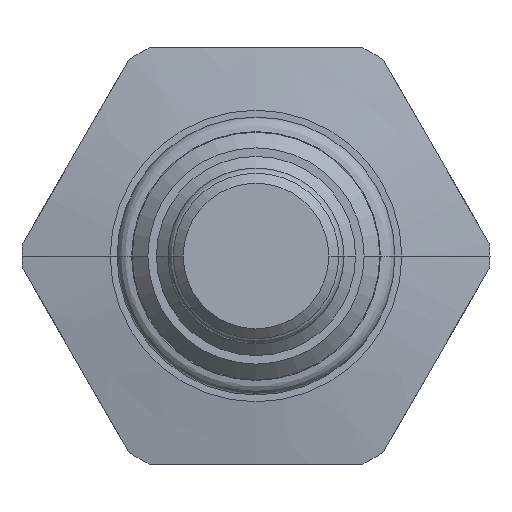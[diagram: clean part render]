
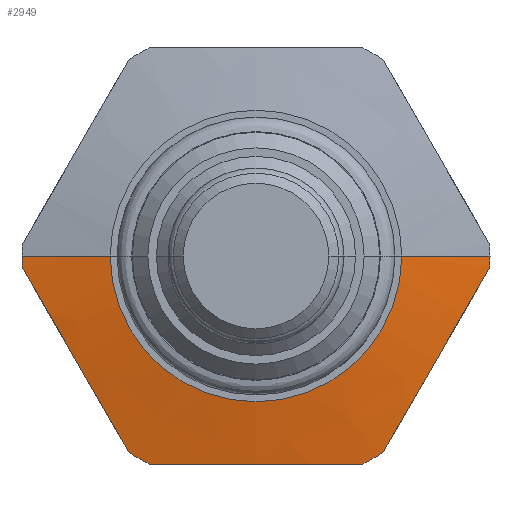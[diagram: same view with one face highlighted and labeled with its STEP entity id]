
A CAD part, front view. The second image highlights one B-rep face of the part: STEP entity #2949.
In plain terms, the highlighted conical face has half-angle 80 degrees and reference radius 14.478 mm.
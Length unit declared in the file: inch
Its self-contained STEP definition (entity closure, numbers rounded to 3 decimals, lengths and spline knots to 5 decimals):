
#641=CARTESIAN_POINT('',(0.32075,0.07663,-0.625));
#642=CARTESIAN_POINT('',(0.30627,0.07546,-0.625));
#643=CARTESIAN_POINT('',(0.27745,0.07327,-0.625));
#644=CARTESIAN_POINT('',(0.2347,0.07041,-0.625));
#645=CARTESIAN_POINT('',(0.19215,0.06798,-0.625));
#646=CARTESIAN_POINT('',(0.14966,0.066,-0.625));
#647=CARTESIAN_POINT('',(0.10704,0.06449,-0.625));
#648=CARTESIAN_POINT('',(0.0643,0.06346,-0.625));
#649=CARTESIAN_POINT('',(0.02144,0.06294,-0.625));
#650=CARTESIAN_POINT('',(-0.02144,0.06294,-0.625));
#651=CARTESIAN_POINT('',(-0.0643,0.06346,-0.625));
#652=CARTESIAN_POINT('',(-0.10704,0.06449,-0.625));
#653=CARTESIAN_POINT('',(-0.14966,0.066,-0.625));
#654=CARTESIAN_POINT('',(-0.19215,0.06798,-0.625));
#655=CARTESIAN_POINT('',(-0.2347,0.07041,-0.625));
#656=CARTESIAN_POINT('',(-0.27745,0.07327,-0.625));
#657=CARTESIAN_POINT('',(-0.30627,0.07546,-0.625));
#658=CARTESIAN_POINT('',(-0.32075,0.07663,-0.625));
#678=CARTESIAN_POINT('',(0.,0.07663,0.));
#679=DIRECTION('',(0.,1.,0.));
#680=DIRECTION('',(-0.457,0.,-0.89));
#681=AXIS2_PLACEMENT_3D('',#678,#679,#680);
#683=CARTESIAN_POINT('',(0.,0.07663,0.));
#684=DIRECTION('',(0.,1.,0.));
#685=DIRECTION('',(-0.999,0.,-0.049));
#686=AXIS2_PLACEMENT_3D('',#683,#684,#685);
#688=CARTESIAN_POINT('',(0.,0.07663,0.));
#689=DIRECTION('',(0.,1.,0.));
#690=DIRECTION('',(1.,0.,0.));
#691=AXIS2_PLACEMENT_3D('',#688,#689,#690);
#693=CARTESIAN_POINT('',(0.,0.07663,0.));
#694=DIRECTION('',(0.,1.,0.));
#695=DIRECTION('',(0.542,0.,-0.84));
#696=AXIS2_PLACEMENT_3D('',#693,#694,#695);
#720=CARTESIAN_POINT('',(-0.38089,0.07663,
-0.59028));
#721=CARTESIAN_POINT('',(-0.38813,0.07546,
-0.57774));
#722=CARTESIAN_POINT('',(-0.40254,0.07327,
-0.55278));
#723=CARTESIAN_POINT('',(-0.42392,0.07041,
-0.51575));
#724=CARTESIAN_POINT('',(-0.44519,0.06798,
-0.47891));
#725=CARTESIAN_POINT('',(-0.46644,0.066,
-0.44211));
#726=CARTESIAN_POINT('',(-0.48775,0.06449,
-0.4052));
#727=CARTESIAN_POINT('',(-0.50912,0.06346,
-0.36819));
#728=CARTESIAN_POINT('',(-0.53054,0.06294,
-0.33107));
#729=CARTESIAN_POINT('',(-0.55199,0.06294,
-0.29393));
#730=CARTESIAN_POINT('',(-0.57342,0.06346,
-0.25681));
#731=CARTESIAN_POINT('',(-0.59479,0.06449,
-0.2198));
#732=CARTESIAN_POINT('',(-0.61609,0.066,
-0.18289));
#733=CARTESIAN_POINT('',(-0.63734,0.06798,
-0.14609));
#734=CARTESIAN_POINT('',(-0.65861,0.07041,
-0.10925));
#735=CARTESIAN_POINT('',(-0.67999,0.07327,
-0.07222));
#736=CARTESIAN_POINT('',(-0.6944,0.07546,
-0.04726));
#737=CARTESIAN_POINT('',(-0.70164,0.07663,
-0.03472));
#830=DIRECTION('',(-0.985,-0.174,0.));
#831=VECTOR('',#830,0.26909);
#832=CARTESIAN_POINT('',(0.7025,0.07663,0.));
#833=LINE('',#832,#831);
#834=DIRECTION('',(0.985,-0.174,0.));
#835=VECTOR('',#834,0.26909);
#836=CARTESIAN_POINT('',(-0.7025,0.07663,0.));
#837=LINE('',#836,#835);
#962=CARTESIAN_POINT('',(0.70164,0.07663,
-0.03472));
#963=CARTESIAN_POINT('',(0.6944,0.07546,
-0.04726));
#964=CARTESIAN_POINT('',(0.67999,0.07327,
-0.07222));
#965=CARTESIAN_POINT('',(0.65861,0.07041,
-0.10925));
#966=CARTESIAN_POINT('',(0.63734,0.06798,
-0.14609));
#967=CARTESIAN_POINT('',(0.61609,0.066,
-0.18289));
#968=CARTESIAN_POINT('',(0.59479,0.06449,
-0.2198));
#969=CARTESIAN_POINT('',(0.57342,0.06346,
-0.25681));
#970=CARTESIAN_POINT('',(0.55199,0.06294,
-0.29393));
#971=CARTESIAN_POINT('',(0.53054,0.06294,
-0.33107));
#972=CARTESIAN_POINT('',(0.50912,0.06346,
-0.36819));
#973=CARTESIAN_POINT('',(0.48775,0.06449,
-0.4052));
#974=CARTESIAN_POINT('',(0.46644,0.066,
-0.44211));
#975=CARTESIAN_POINT('',(0.44519,0.06798,
-0.47891));
#976=CARTESIAN_POINT('',(0.42392,0.07041,
-0.51575));
#977=CARTESIAN_POINT('',(0.40254,0.07327,
-0.55278));
#978=CARTESIAN_POINT('',(0.38813,0.07546,
-0.57774));
#979=CARTESIAN_POINT('',(0.38089,0.07663,
-0.59028));
#1004=CARTESIAN_POINT('',(0.,0.0299,0.));
#1005=DIRECTION('',(0.,1.,0.));
#1006=DIRECTION('',(1.,0.,0.));
#1007=AXIS2_PLACEMENT_3D('',#1004,#1005,#1006);
#1619=CARTESIAN_POINT('',(0.4375,0.0299,0.));
#1621=VERTEX_POINT('',#1619);
#1623=CARTESIAN_POINT('',(-0.4375,0.0299,0.));
#1625=VERTEX_POINT('',#1623);
#1675=CARTESIAN_POINT('',(-0.32075,0.07663,-0.625));
#1676=CARTESIAN_POINT('',(-0.38089,0.07663,
-0.59028));
#1677=VERTEX_POINT('',#1675);
#1678=VERTEX_POINT('',#1676);
#1679=CARTESIAN_POINT('',(-0.70164,0.07663,
-0.03472));
#1680=CARTESIAN_POINT('',(-0.7025,0.07663,0.));
#1681=VERTEX_POINT('',#1679);
#1682=VERTEX_POINT('',#1680);
#1683=CARTESIAN_POINT('',(0.7025,0.07663,0.));
#1684=CARTESIAN_POINT('',(0.70164,0.07663,
-0.03472));
#1685=VERTEX_POINT('',#1683);
#1686=VERTEX_POINT('',#1684);
#1687=CARTESIAN_POINT('',(0.38089,0.07663,
-0.59028));
#1688=CARTESIAN_POINT('',(0.32075,0.07663,-0.625));
#1689=VERTEX_POINT('',#1687);
#1690=VERTEX_POINT('',#1688);
#2924=CARTESIAN_POINT('',(0.,0.05327,0.));
#2925=DIRECTION('',(0.,1.,0.));
#2926=DIRECTION('',(1.,0.,0.));
#2927=AXIS2_PLACEMENT_3D('',#2924,#2925,#2926);
#2928=CONICAL_SURFACE('',#2927,0.57,80.);
#2929=ORIENTED_EDGE('',*,*,#2914,.T.);
#2931=ORIENTED_EDGE('',*,*,#2930,.T.);
#2933=ORIENTED_EDGE('',*,*,#2932,.T.);
#2935=ORIENTED_EDGE('',*,*,#2934,.T.);
#2937=ORIENTED_EDGE('',*,*,#2936,.F.);
#2939=ORIENTED_EDGE('',*,*,#2938,.F.);
#2941=ORIENTED_EDGE('',*,*,#2940,.T.);
#2943=ORIENTED_EDGE('',*,*,#2942,.T.);
#2945=ORIENTED_EDGE('',*,*,#2944,.T.);
#2946=ORIENTED_EDGE('',*,*,#2897,.T.);
#2947=EDGE_LOOP('',(#2929,#2931,#2933,#2935,#2937,#2939,#2941,#2943,#2945,
#2946));
#2948=FACE_OUTER_BOUND('',#2947,.F.);
#2949=ADVANCED_FACE('',(#2948),#2928,.T.);
#659=B_SPLINE_CURVE_WITH_KNOTS('',3,(#641,#642,#643,#644,#645,#646,#647,#648,
#649,#650,#651,#652,#653,#654,#655,#656,#657,#658),.UNSPECIFIED.,.F.,.F.,(4,1,1,
1,1,1,1,1,1,1,1,1,1,1,1,4),(0.,0.06667,0.13333,0.2,
0.26667,0.33333,0.4,0.46667,0.53333,
0.6,0.66667,0.73333,0.8,0.86667,
0.93333,1.),.UNSPECIFIED.);
#682=CIRCLE('',#681,0.7025);
#687=CIRCLE('',#686,0.7025);
#692=CIRCLE('',#691,0.7025);
#697=CIRCLE('',#696,0.7025);
#738=B_SPLINE_CURVE_WITH_KNOTS('',3,(#720,#721,#722,#723,#724,#725,#726,#727,
#728,#729,#730,#731,#732,#733,#734,#735,#736,#737),.UNSPECIFIED.,.F.,.F.,(4,1,1,
1,1,1,1,1,1,1,1,1,1,1,1,4),(0.,0.06667,0.13333,0.2,
0.26667,0.33333,0.4,0.46667,0.53333,
0.6,0.66667,0.73333,0.8,0.86667,
0.93333,1.),.UNSPECIFIED.);
#980=B_SPLINE_CURVE_WITH_KNOTS('',3,(#962,#963,#964,#965,#966,#967,#968,#969,
#970,#971,#972,#973,#974,#975,#976,#977,#978,#979),.UNSPECIFIED.,.F.,.F.,(4,1,1,
1,1,1,1,1,1,1,1,1,1,1,1,4),(0.,0.06667,0.13333,0.2,
0.26667,0.33333,0.4,0.46667,0.53333,
0.6,0.66667,0.73333,0.8,0.86667,
0.93333,1.),.UNSPECIFIED.);
#1008=CIRCLE('',#1007,0.4375);
#2897=EDGE_CURVE('',#1690,#1677,#659,.T.);
#2914=EDGE_CURVE('',#1677,#1678,#682,.T.);
#2930=EDGE_CURVE('',#1678,#1681,#738,.T.);
#2932=EDGE_CURVE('',#1681,#1682,#687,.T.);
#2934=EDGE_CURVE('',#1682,#1625,#837,.T.);
#2936=EDGE_CURVE('',#1621,#1625,#1008,.T.);
#2938=EDGE_CURVE('',#1685,#1621,#833,.T.);
#2940=EDGE_CURVE('',#1685,#1686,#692,.T.);
#2942=EDGE_CURVE('',#1686,#1689,#980,.T.);
#2944=EDGE_CURVE('',#1689,#1690,#697,.T.);
